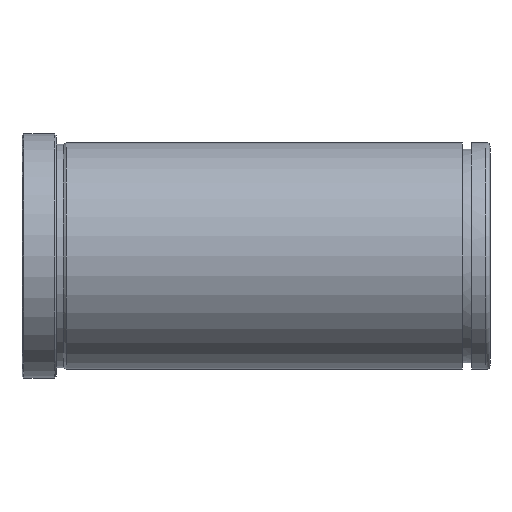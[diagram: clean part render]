
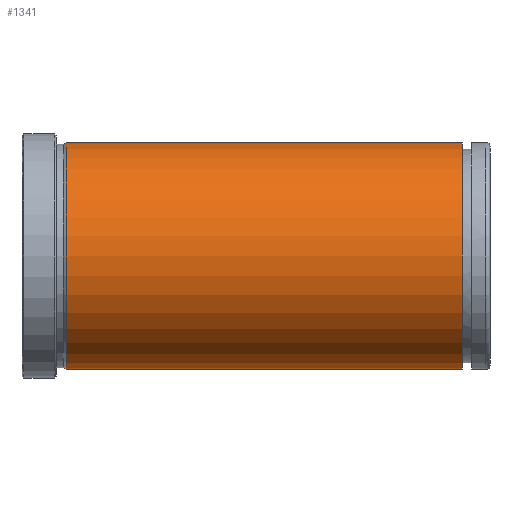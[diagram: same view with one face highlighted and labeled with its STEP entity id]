
A CAD part, front view. The second image highlights one B-rep face of the part: STEP entity #1341.
In plain terms, the highlighted cylindrical face has radius 33 mm (diameter 66 mm), a partial arc.
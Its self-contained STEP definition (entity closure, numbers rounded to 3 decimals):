
#1203=CARTESIAN_POINT('Vertex',(128.,0.,33.)) ;
#1206=CARTESIAN_POINT('Axis2P3D Location',(128.,0.,0.)) ;
#1210=CARTESIAN_POINT('Vertex',(128.,-33.,0.)) ;
#1213=CARTESIAN_POINT('Axis2P3D Location',(128.,0.,0.)) ;
#1217=CARTESIAN_POINT('Vertex',(128.,0.,-33.)) ;
#1247=CARTESIAN_POINT('Vertex',(12.866,0.,-33.)) ;
#1254=CARTESIAN_POINT('Vertex',(12.866,0.,33.)) ;
#1283=CARTESIAN_POINT('Axis2P3D Location',(12.866,0.,0.)) ;
#1287=CARTESIAN_POINT('Vertex',(12.866,-33.,0.)) ;
#1290=CARTESIAN_POINT('Axis2P3D Location',(12.866,0.,0.)) ;
#1309=CARTESIAN_POINT('Line Origine',(272.,0.,33.)) ;
#1314=CARTESIAN_POINT('Line Origine',(272.,0.,-33.)) ;
#1328=CARTESIAN_POINT('Axis2P3D Location',(272.,0.,0.)) ;
#1207=DIRECTION('Axis2P3D Direction',(1.,0.,-0.)) ;
#1214=DIRECTION('Axis2P3D Direction',(1.,0.,-0.)) ;
#1284=DIRECTION('Axis2P3D Direction',(1.,0.,-0.)) ;
#1291=DIRECTION('Axis2P3D Direction',(1.,0.,-0.)) ;
#1310=DIRECTION('Vector Direction',(-1.,0.,0.)) ;
#1315=DIRECTION('Vector Direction',(-1.,0.,0.)) ;
#1329=DIRECTION('Axis2P3D Direction',(-1.,-0.,-0.)) ;
#1330=DIRECTION('Axis2P3D XDirection',(0.,0.,-1.)) ;
#1208=AXIS2_PLACEMENT_3D('Circle Axis2P3D',#1206,#1207,$) ;
#1215=AXIS2_PLACEMENT_3D('Circle Axis2P3D',#1213,#1214,$) ;
#1285=AXIS2_PLACEMENT_3D('Circle Axis2P3D',#1283,#1284,$) ;
#1292=AXIS2_PLACEMENT_3D('Circle Axis2P3D',#1290,#1291,$) ;
#1331=AXIS2_PLACEMENT_3D('Cylinder Axis2P3D',#1328,#1329,#1330) ;
#1334=ORIENTED_EDGE('',*,*,#1318,.T.) ;
#1335=ORIENTED_EDGE('',*,*,#1219,.F.) ;
#1336=ORIENTED_EDGE('',*,*,#1212,.F.) ;
#1337=ORIENTED_EDGE('',*,*,#1313,.T.) ;
#1338=ORIENTED_EDGE('',*,*,#1294,.T.) ;
#1339=ORIENTED_EDGE('',*,*,#1289,.T.) ;
#1311=VECTOR('Line Direction',#1310,1.) ;
#1316=VECTOR('Line Direction',#1315,1.) ;
#1341=ADVANCED_FACE('553-52X136',(#1340),#1332,.T.) ;
#1209=CIRCLE('generated circle',#1208,33.) ;
#1216=CIRCLE('generated circle',#1215,33.) ;
#1286=CIRCLE('generated circle',#1285,33.) ;
#1293=CIRCLE('generated circle',#1292,33.) ;
#1332=CYLINDRICAL_SURFACE('generated cylinder',#1331,33.) ;
#1212=EDGE_CURVE('',#1204,#1211,#1209,.T.) ;
#1219=EDGE_CURVE('',#1211,#1218,#1216,.T.) ;
#1289=EDGE_CURVE('',#1288,#1248,#1286,.T.) ;
#1294=EDGE_CURVE('',#1255,#1288,#1293,.T.) ;
#1313=EDGE_CURVE('',#1204,#1255,#1312,.T.) ;
#1318=EDGE_CURVE('',#1248,#1218,#1317,.F.) ;
#1333=EDGE_LOOP('',(#1334,#1335,#1336,#1337,#1338,#1339)) ;
#1340=FACE_OUTER_BOUND('',#1333,.T.) ;
#1312=LINE('Line',#1309,#1311) ;
#1317=LINE('Line',#1314,#1316) ;
#1204=VERTEX_POINT('',#1203) ;
#1211=VERTEX_POINT('',#1210) ;
#1218=VERTEX_POINT('',#1217) ;
#1248=VERTEX_POINT('',#1247) ;
#1255=VERTEX_POINT('',#1254) ;
#1288=VERTEX_POINT('',#1287) ;
